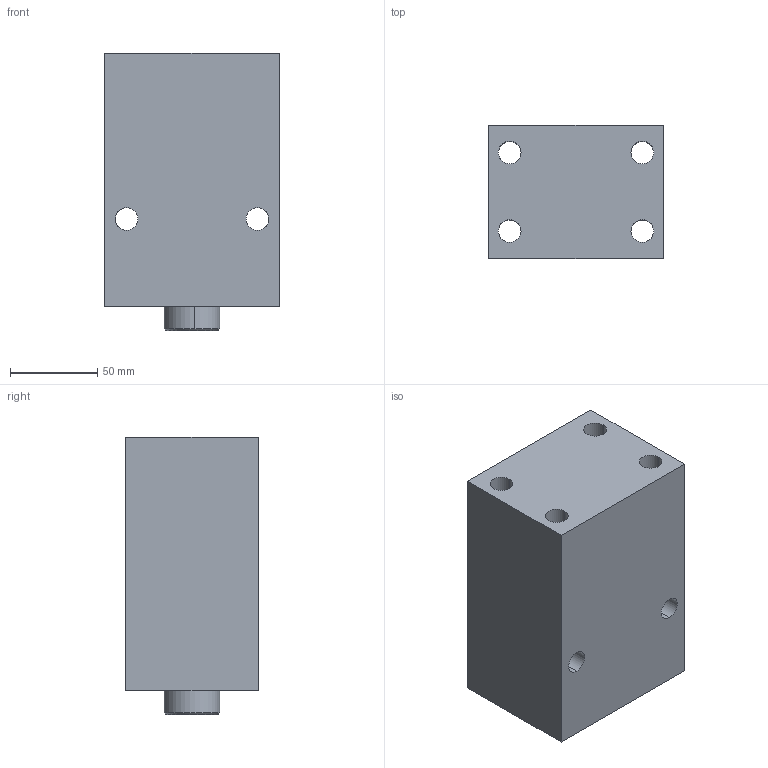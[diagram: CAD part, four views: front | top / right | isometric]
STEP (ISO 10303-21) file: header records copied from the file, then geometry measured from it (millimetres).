
FILE_DESCRIPTION (( 'STEP AP203' ), '1' );
FILE_NAME ('Block cylinder B01C-475F.STEP', '2022-07-09T18:31:23', ( '' ), ( '' ), 'SwSTEP 2.0', 'SolidWorks 2017', '' );
FILE_SCHEMA (( 'CONFIG_CONTROL_DESIGN' ));
Length unit declared in the file: millimetre
Products named in the file (3): Piston_475F_50sT; Block cylinder B01C-475F; Body_475F_50ST
Assembly tree (2 placements, depth 2):
  Block cylinder B01C-475F
    Body_475F_50ST
    Piston_475F_50sT
Bounding box: 100 x 76 x 159 mm (x, y, z)
Volume: 1067603.3 mm3; surface area: 112221.3 mm2
Topology: 2 solids, 2 shells, 217 faces, 586 edges, 385 vertices
Faces by surface type: plane 112, bspline 65, cylinder 32, cone 8
Entity records: 11467 total; most frequent: CARTESIAN_POINT 6140, ORIENTED_EDGE 1160, DIRECTION 798, EDGE_CURVE 580, VERTEX_POINT 385, VECTOR 368, LINE 368, EDGE_LOOP 255
